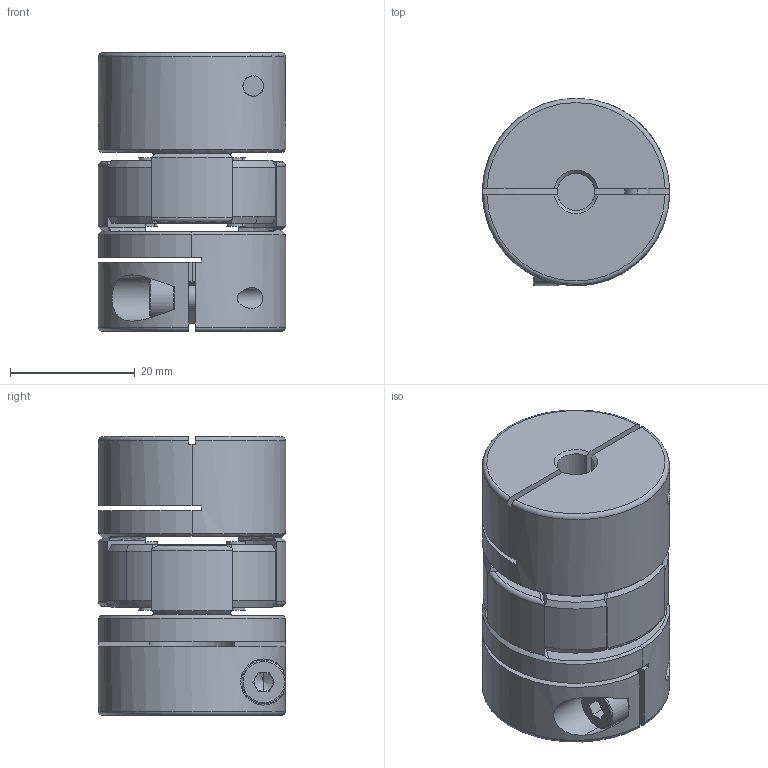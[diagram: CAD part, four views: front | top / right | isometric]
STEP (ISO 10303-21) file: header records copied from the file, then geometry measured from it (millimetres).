
FILE_DESCRIPTION (( 'STEP AP203' ), '1' );
FILE_NAME ('SJCB-30C-6X14_203.STEP', '2013-02-22T06:51:49', ( 'MYCOM' ), ( '' ), 'SwSTEP 2.0', 'SolidWorks 2012', '' );
FILE_SCHEMA (( 'CONFIG_CONTROL_DESIGN' ));
Length unit declared in the file: millimetre
Products named in the file (1): SJCB-30C-6X14_203
Bounding box: 30 x 30 x 44.7 mm (x, y, z)
Volume: 24774.7 mm3; surface area: 11631.4 mm2
Topology: 1 solids, 1 shells, 259 faces, 687 edges, 425 vertices
Faces by surface type: cylinder 84, plane 71, cone 68, torus 36
Entity records: 8633 total; most frequent: CARTESIAN_POINT 2103, DIRECTION 1404, ORIENTED_EDGE 1366, EDGE_CURVE 683, AXIS2_PLACEMENT_3D 590, VERTEX_POINT 425, CIRCLE 330, EDGE_LOOP 278
